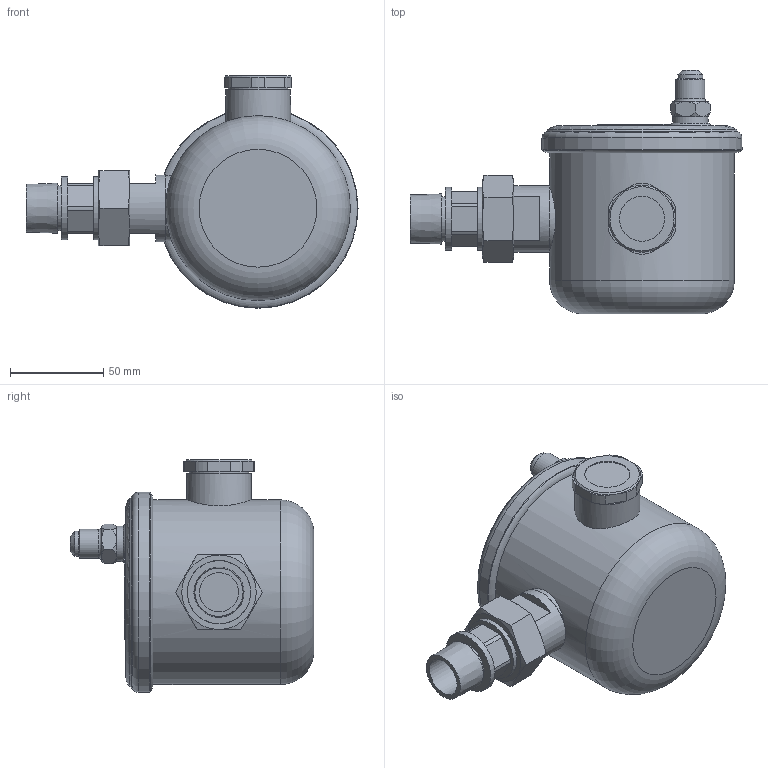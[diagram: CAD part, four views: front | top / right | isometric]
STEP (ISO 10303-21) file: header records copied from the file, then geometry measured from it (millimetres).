
FILE_DESCRIPTION(/* description */ (''),/* implementation_level */ '2;1');
FILE_NAME(/* name */ 'P:\ORE_ERM\ORL-SN\ORL-SN.stp',/* time_stamp */ '2017-10-05T08:42:32+02:00',/* author */ ('neufeld'),/* organization */ (''),/* preprocessor_version */ 'ST-DEVELOPER v16.1',/* originating_system */ 'Autodesk Inventor 2016',/* authorisation */ '');
FILE_SCHEMA (('AUTOMOTIVE_DESIGN { 1 0 10303 214 3 1 1 }'));
Length unit declared in the file: millimetre
Products named in the file (2): ORL-SN; ORL-SN_1
Assembly tree (1 placements, depth 2):
  ORL-SN_1
    ORL-SN
Bounding box: 178.45 x 131 x 124.95 mm (x, y, z)
Volume: 863449.1 mm3; surface area: 63990.2 mm2
Topology: 1 solids, 1 shells, 1114 faces, 2982 edges, 1973 vertices
Faces by surface type: plane 673, bspline 375, cylinder 37, cone 21, torus 8
Full cylindrical faces by diameter (mm): 7.2 x1, 13.5 x1, 15.7 x1, 19 x1, 21 x1, 24 x1, 24.2 x1, 32.15 x1, 34 x2, 34.1 x1, 35 x1, 35.7 x1, 35.9 x1, 36.6 x1, 99.3 x1, 107.5 x1
Entity records: 37178 total; most frequent: CARTESIAN_POINT 12089, ORIENTED_EDGE 5888, DIRECTION 3742, EDGE_CURVE 2936, LINE 2036, VECTOR 2036, VERTEX_POINT 1962, EDGE_LOOP 1252
